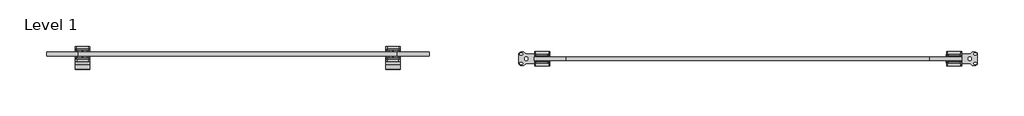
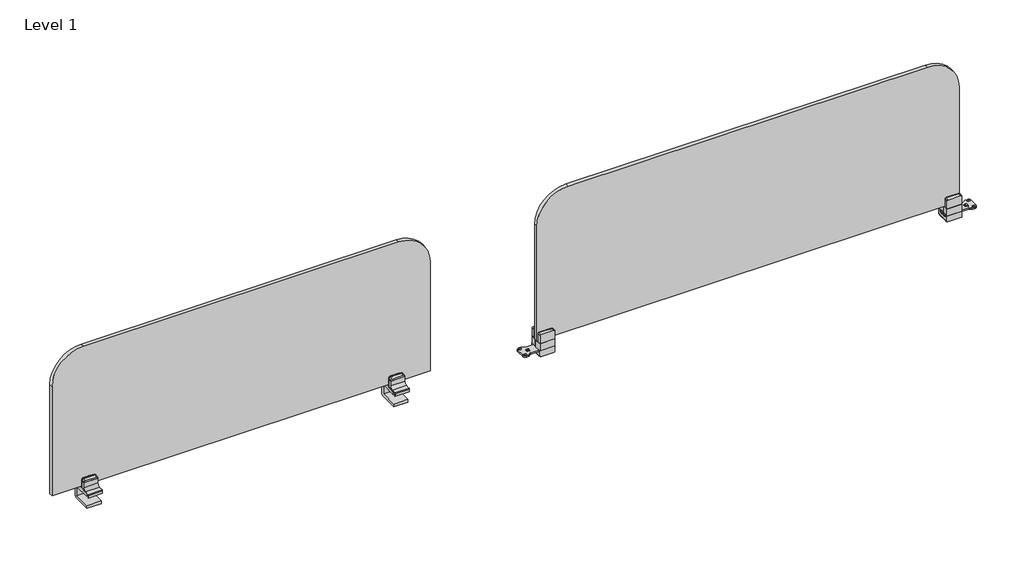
# One storey, incomplete: 2 furniture elements.
"""IFC4 building model written with IfcOpenShell, lengths in millimetres."""

from ifc_helpers import new_model, si_unit, origin, place, context, project, spatial, transform, mapped, element, save
from components import furniture_cf596cc2, furniture_f6a1e811

model = new_model("IFC4")

# Units and contexts
model_context = context("Model", 3, world=origin())
ifc_project = project(units=[si_unit("LENGTHUNIT", "METRE", prefix="MILLI")], contexts=[model_context])

# Site, building, storey
site = spatial("IfcSite", under=ifc_project)
building = spatial("IfcBuilding", under=site)
storey = spatial("IfcBuildingStorey", under=building, Name="Level 1", Elevation=0.0)

# Furniture
placement = place(None, origin())
furniture_shape = furniture_cf596cc2(model_context)
element("IfcFurniture", 1, ObjectType="Logos Echopanel Screen : Logos Echopanel Screen", at=placement, inside=storey, context=model_context, shape_type="MappedRepresentation", body=[
    mapped(furniture_shape, transform((-1035.6539247, 187.3536276, 0.0), x_axis=(1.0, 0.0, 0.0), y_axis=(0.0, 1.0, 0.0), z_axis=(0.0, 0.0, 1.0))),
])
furniture_2_shape = furniture_f6a1e811(model_context)
element("IfcFurniture", 2, ObjectType="Logos Echopanel Screen_Type 1 : Logos Echopanel Screen_Type 1", at=placement, inside=storey, context=model_context, shape_type="MappedRepresentation", body=[
    mapped(furniture_2_shape, transform((-2635.6539247, 187.3536276, 0.0), x_axis=(1.0, 0.0, 0.0), y_axis=(0.0, 1.0, 0.0), z_axis=(0.0, 0.0, 1.0))),
])

save(model, "model.ifc")
